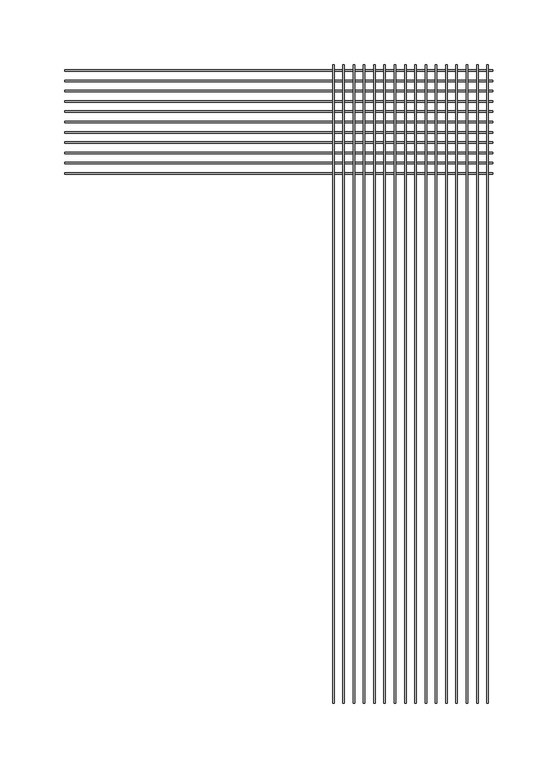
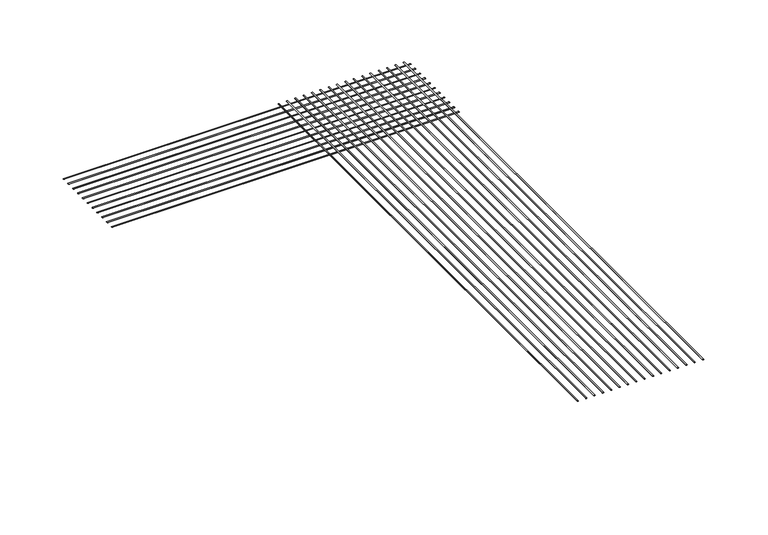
"""IFC4 building model written with IfcOpenShell, lengths in millimetres: proxy geometry, CRAi Generic Model Mesh Piece Face Based : CRAi Generic Model Mesh Piece Face Based."""

from ifc_helpers import new_model, si_unit, point, frame, origin, place, context, project, spatial, ellipse_curve, trimmed, source, transform, mapped, element, save
from ifc_brep_helpers import plane_surface, extruded_surface, advanced_brep


def generic_models_1e1ad44f(model_context):
    return source(origin(), model_context, "Body", "AdvancedBrep", [
        advanced_brep(
        [(41.4734375, -246.3036785, -2.5796875), (42.6640625, -246.3036785, -2.5796875), (41.4734375, 246.3036785, -2.5796875), (42.6640625, 246.3036785, -2.5796875)],
        [
            (0, 1, ellipse_curve(frame((42.06875, -246.3036785, -2.5796875), z_axis=(0.0, -1.0, 0.0), x_axis=(1.0, 0.0, 0.0)), 0.5953125, 0.1984375)),
            (1, 0, ellipse_curve(frame((42.06875, -246.3036785, -2.5796875), z_axis=(0.0, -1.0, 0.0), x_axis=(1.0, 0.0, 0.0)), 0.5953125, 0.1984375)),
            (2, 3, ellipse_curve(frame((42.06875, 246.3036785, -2.5796875), z_axis=(0.0, 1.0, 0.0), x_axis=(1.0, 0.0, 0.0)), 0.5953125, 0.1984375)),
            (3, 2, ellipse_curve(frame((42.06875, 246.3036785, -2.5796875), z_axis=(0.0, 1.0, 0.0), x_axis=(1.0, 0.0, 0.0)), 0.5953125, 0.1984375)),
            (0, 2),
            (3, 1),
        ],
        [
            plane_surface(frame((42.06875, -246.3036785, -2.5796875), z_axis=(0.0, -1.0, 0.0), x_axis=(0.0, 0.0, 1.0))),
            plane_surface(frame((42.06875, 246.3036785, -2.5796875), z_axis=(0.0, 1.0, 0.0), x_axis=(0.0, 0.0, 1.0))),
            extruded_surface(trimmed(ellipse_curve(frame((42.06875, 246.3036785, -2.5796875), z_axis=(0.0, -1.0, 0.0), x_axis=(1.0, 0.0, 0.0)), 0.5953125, 0.1984375), [point((41.4734375, 246.3036785, -2.5796875))], [point((42.6640625, 246.3036785, -2.5796875))], True, "CARTESIAN"), (0.0, -492.607357, 0.0), 492.607357),
            extruded_surface(trimmed(ellipse_curve(frame((42.06875, 246.3036785, -2.5796875), z_axis=(0.0, -1.0, 0.0), x_axis=(1.0, 0.0, 0.0)), 0.5953125, 0.1984375), [point((42.6640625, 246.3036785, -2.5796875))], [point((41.4734375, 246.3036785, -2.5796875))], True, "CARTESIAN"), (0.0, -492.607357, 0.0), 492.607357),
        ],
        [
            (0, [[1, 2]]),
            (1, [[3, 4]]),
            (2, [[-1, 5, -4, 6]]),
            (3, [[-2, -6, -3, -5]]),
        ],
    ),
        advanced_brep(
        [(49.4109375, -246.3036785, -2.5796875), (50.6015625, -246.3036785, -2.5796875), (49.4109375, 246.3036785, -2.5796875), (50.6015625, 246.3036785, -2.5796875)],
        [
            (0, 1, ellipse_curve(frame((50.00625, -246.3036785, -2.5796875), z_axis=(0.0, -1.0, 0.0), x_axis=(1.0, 0.0, 0.0)), 0.5953125, 0.1984375)),
            (1, 0, ellipse_curve(frame((50.00625, -246.3036785, -2.5796875), z_axis=(0.0, -1.0, 0.0), x_axis=(1.0, 0.0, 0.0)), 0.5953125, 0.1984375)),
            (2, 3, ellipse_curve(frame((50.00625, 246.3036785, -2.5796875), z_axis=(0.0, 1.0, 0.0), x_axis=(1.0, 0.0, 0.0)), 0.5953125, 0.1984375)),
            (3, 2, ellipse_curve(frame((50.00625, 246.3036785, -2.5796875), z_axis=(0.0, 1.0, 0.0), x_axis=(1.0, 0.0, 0.0)), 0.5953125, 0.1984375)),
            (0, 2),
            (3, 1),
        ],
        [
            plane_surface(frame((50.00625, -246.3036785, -2.5796875), z_axis=(0.0, -1.0, 0.0), x_axis=(0.0, 0.0, 1.0))),
            plane_surface(frame((50.00625, 246.3036785, -2.5796875), z_axis=(0.0, 1.0, 0.0), x_axis=(0.0, 0.0, 1.0))),
            extruded_surface(trimmed(ellipse_curve(frame((50.00625, 246.3036785, -2.5796875), z_axis=(0.0, -1.0, 0.0), x_axis=(1.0, 0.0, 0.0)), 0.5953125, 0.1984375), [point((49.4109375, 246.3036785, -2.5796875))], [point((50.6015625, 246.3036785, -2.5796875))], True, "CARTESIAN"), (0.0, -492.607357, 0.0), 492.607357),
            extruded_surface(trimmed(ellipse_curve(frame((50.00625, 246.3036785, -2.5796875), z_axis=(0.0, -1.0, 0.0), x_axis=(1.0, 0.0, 0.0)), 0.5953125, 0.1984375), [point((50.6015625, 246.3036785, -2.5796875))], [point((49.4109375, 246.3036785, -2.5796875))], True, "CARTESIAN"), (0.0, -492.607357, 0.0), 492.607357),
        ],
        [
            (0, [[1, 2]]),
            (1, [[3, 4]]),
            (2, [[-1, 5, -4, 6]]),
            (3, [[-2, -6, -3, -5]]),
        ],
    ),
        advanced_brep(
        [(57.3484375, -246.3036785, -2.5796875), (58.5390625, -246.3036785, -2.5796875), (57.3484375, 246.3036785, -2.5796875), (58.5390625, 246.3036785, -2.5796875)],
        [
            (0, 1, ellipse_curve(frame((57.94375, -246.3036785, -2.5796875), z_axis=(0.0, -1.0, 0.0), x_axis=(1.0, 0.0, 0.0)), 0.5953125, 0.1984375)),
            (1, 0, ellipse_curve(frame((57.94375, -246.3036785, -2.5796875), z_axis=(0.0, -1.0, 0.0), x_axis=(1.0, 0.0, 0.0)), 0.5953125, 0.1984375)),
            (2, 3, ellipse_curve(frame((57.94375, 246.3036785, -2.5796875), z_axis=(0.0, 1.0, 0.0), x_axis=(1.0, 0.0, 0.0)), 0.5953125, 0.1984375)),
            (3, 2, ellipse_curve(frame((57.94375, 246.3036785, -2.5796875), z_axis=(0.0, 1.0, 0.0), x_axis=(1.0, 0.0, 0.0)), 0.5953125, 0.1984375)),
            (0, 2),
            (3, 1),
        ],
        [
            plane_surface(frame((57.94375, -246.3036785, -2.5796875), z_axis=(0.0, -1.0, 0.0), x_axis=(0.0, 0.0, 1.0))),
            plane_surface(frame((57.94375, 246.3036785, -2.5796875), z_axis=(0.0, 1.0, 0.0), x_axis=(0.0, 0.0, 1.0))),
            extruded_surface(trimmed(ellipse_curve(frame((57.94375, 246.3036785, -2.5796875), z_axis=(0.0, -1.0, 0.0), x_axis=(1.0, 0.0, 0.0)), 0.5953125, 0.1984375), [point((57.3484375, 246.3036785, -2.5796875))], [point((58.5390625, 246.3036785, -2.5796875))], True, "CARTESIAN"), (0.0, -492.607357, 0.0), 492.607357),
            extruded_surface(trimmed(ellipse_curve(frame((57.94375, 246.3036785, -2.5796875), z_axis=(0.0, -1.0, 0.0), x_axis=(1.0, 0.0, 0.0)), 0.5953125, 0.1984375), [point((58.5390625, 246.3036785, -2.5796875))], [point((57.3484375, 246.3036785, -2.5796875))], True, "CARTESIAN"), (0.0, -492.607357, 0.0), 492.607357),
        ],
        [
            (0, [[1, 2]]),
            (1, [[3, 4]]),
            (2, [[-1, 5, -4, 6]]),
            (3, [[-2, -6, -3, -5]]),
        ],
    ),
        advanced_brep(
        [(65.2859375, -246.3036785, -2.5796875), (66.4765625, -246.3036785, -2.5796875), (65.2859375, 246.3036785, -2.5796875), (66.4765625, 246.3036785, -2.5796875)],
        [
            (0, 1, ellipse_curve(frame((65.88125, -246.3036785, -2.5796875), z_axis=(0.0, -1.0, 0.0), x_axis=(1.0, 0.0, 0.0)), 0.5953125, 0.1984375)),
            (1, 0, ellipse_curve(frame((65.88125, -246.3036785, -2.5796875), z_axis=(0.0, -1.0, 0.0), x_axis=(1.0, 0.0, 0.0)), 0.5953125, 0.1984375)),
            (2, 3, ellipse_curve(frame((65.88125, 246.3036785, -2.5796875), z_axis=(0.0, 1.0, 0.0), x_axis=(1.0, 0.0, 0.0)), 0.5953125, 0.1984375)),
            (3, 2, ellipse_curve(frame((65.88125, 246.3036785, -2.5796875), z_axis=(0.0, 1.0, 0.0), x_axis=(1.0, 0.0, 0.0)), 0.5953125, 0.1984375)),
            (0, 2),
            (3, 1),
        ],
        [
            plane_surface(frame((65.88125, -246.3036785, -2.5796875), z_axis=(0.0, -1.0, 0.0), x_axis=(0.0, 0.0, 1.0))),
            plane_surface(frame((65.88125, 246.3036785, -2.5796875), z_axis=(0.0, 1.0, 0.0), x_axis=(0.0, 0.0, 1.0))),
            extruded_surface(trimmed(ellipse_curve(frame((65.88125, 246.3036785, -2.5796875), z_axis=(0.0, -1.0, 0.0), x_axis=(1.0, 0.0, 0.0)), 0.5953125, 0.1984375), [point((65.2859375, 246.3036785, -2.5796875))], [point((66.4765625, 246.3036785, -2.5796875))], True, "CARTESIAN"), (0.0, -492.607357, 0.0), 492.607357),
            extruded_surface(trimmed(ellipse_curve(frame((65.88125, 246.3036785, -2.5796875), z_axis=(0.0, -1.0, 0.0), x_axis=(1.0, 0.0, 0.0)), 0.5953125, 0.1984375), [point((66.4765625, 246.3036785, -2.5796875))], [point((65.2859375, 246.3036785, -2.5796875))], True, "CARTESIAN"), (0.0, -492.607357, 0.0), 492.607357),
        ],
        [
            (0, [[1, 2]]),
            (1, [[3, 4]]),
            (2, [[-1, 5, -4, 6]]),
            (3, [[-2, -6, -3, -5]]),
        ],
    ),
        advanced_brep(
        [(73.2234375, -246.3036785, -2.5796875), (74.4140625, -246.3036785, -2.5796875), (73.2234375, 246.3036785, -2.5796875), (74.4140625, 246.3036785, -2.5796875)],
        [
            (0, 1, ellipse_curve(frame((73.81875, -246.3036785, -2.5796875), z_axis=(0.0, -1.0, 0.0), x_axis=(1.0, 0.0, 0.0)), 0.5953125, 0.1984375)),
            (1, 0, ellipse_curve(frame((73.81875, -246.3036785, -2.5796875), z_axis=(0.0, -1.0, 0.0), x_axis=(1.0, 0.0, 0.0)), 0.5953125, 0.1984375)),
            (2, 3, ellipse_curve(frame((73.81875, 246.3036785, -2.5796875), z_axis=(0.0, 1.0, 0.0), x_axis=(1.0, 0.0, 0.0)), 0.5953125, 0.1984375)),
            (3, 2, ellipse_curve(frame((73.81875, 246.3036785, -2.5796875), z_axis=(0.0, 1.0, 0.0), x_axis=(1.0, 0.0, 0.0)), 0.5953125, 0.1984375)),
            (0, 2),
            (3, 1),
        ],
        [
            plane_surface(frame((73.81875, -246.3036785, -2.5796875), z_axis=(0.0, -1.0, 0.0), x_axis=(0.0, 0.0, 1.0))),
            plane_surface(frame((73.81875, 246.3036785, -2.5796875), z_axis=(0.0, 1.0, 0.0), x_axis=(0.0, 0.0, 1.0))),
            extruded_surface(trimmed(ellipse_curve(frame((73.81875, 246.3036785, -2.5796875), z_axis=(0.0, -1.0, 0.0), x_axis=(1.0, 0.0, 0.0)), 0.5953125, 0.1984375), [point((73.2234375, 246.3036785, -2.5796875))], [point((74.4140625, 246.3036785, -2.5796875))], True, "CARTESIAN"), (0.0, -492.607357, 0.0), 492.607357),
            extruded_surface(trimmed(ellipse_curve(frame((73.81875, 246.3036785, -2.5796875), z_axis=(0.0, -1.0, 0.0), x_axis=(1.0, 0.0, 0.0)), 0.5953125, 0.1984375), [point((74.4140625, 246.3036785, -2.5796875))], [point((73.2234375, 246.3036785, -2.5796875))], True, "CARTESIAN"), (0.0, -492.607357, 0.0), 492.607357),
        ],
        [
            (0, [[1, 2]]),
            (1, [[3, 4]]),
            (2, [[-1, 5, -4, 6]]),
            (3, [[-2, -6, -3, -5]]),
        ],
    ),
        advanced_brep(
        [(81.1609375, -246.3036785, -2.5796875), (82.3515625, -246.3036785, -2.5796875), (81.1609375, 246.3036785, -2.5796875), (82.3515625, 246.3036785, -2.5796875)],
        [
            (0, 1, ellipse_curve(frame((81.75625, -246.3036785, -2.5796875), z_axis=(0.0, -1.0, 0.0), x_axis=(1.0, 0.0, 0.0)), 0.5953125, 0.1984375)),
            (1, 0, ellipse_curve(frame((81.75625, -246.3036785, -2.5796875), z_axis=(0.0, -1.0, 0.0), x_axis=(1.0, 0.0, 0.0)), 0.5953125, 0.1984375)),
            (2, 3, ellipse_curve(frame((81.75625, 246.3036785, -2.5796875), z_axis=(0.0, 1.0, 0.0), x_axis=(1.0, 0.0, 0.0)), 0.5953125, 0.1984375)),
            (3, 2, ellipse_curve(frame((81.75625, 246.3036785, -2.5796875), z_axis=(0.0, 1.0, 0.0), x_axis=(1.0, 0.0, 0.0)), 0.5953125, 0.1984375)),
            (0, 2),
            (3, 1),
        ],
        [
            plane_surface(frame((81.75625, -246.3036785, -2.5796875), z_axis=(0.0, -1.0, 0.0), x_axis=(0.0, 0.0, 1.0))),
            plane_surface(frame((81.75625, 246.3036785, -2.5796875), z_axis=(0.0, 1.0, 0.0), x_axis=(0.0, 0.0, 1.0))),
            extruded_surface(trimmed(ellipse_curve(frame((81.75625, 246.3036785, -2.5796875), z_axis=(0.0, -1.0, 0.0), x_axis=(1.0, 0.0, 0.0)), 0.5953125, 0.1984375), [point((81.1609375, 246.3036785, -2.5796875))], [point((82.3515625, 246.3036785, -2.5796875))], True, "CARTESIAN"), (0.0, -492.607357, 0.0), 492.607357),
            extruded_surface(trimmed(ellipse_curve(frame((81.75625, 246.3036785, -2.5796875), z_axis=(0.0, -1.0, 0.0), x_axis=(1.0, 0.0, 0.0)), 0.5953125, 0.1984375), [point((82.3515625, 246.3036785, -2.5796875))], [point((81.1609375, 246.3036785, -2.5796875))], True, "CARTESIAN"), (0.0, -492.607357, 0.0), 492.607357),
        ],
        [
            (0, [[1, 2]]),
            (1, [[3, 4]]),
            (2, [[-1, 5, -4, 6]]),
            (3, [[-2, -6, -3, -5]]),
        ],
    ),
        advanced_brep(
        [(89.0984375, -246.3036785, -2.5796875), (90.2890625, -246.3036785, -2.5796875), (89.0984375, 246.3036785, -2.5796875), (90.2890625, 246.3036785, -2.5796875)],
        [
            (0, 1, ellipse_curve(frame((89.69375, -246.3036785, -2.5796875), z_axis=(0.0, -1.0, 0.0), x_axis=(1.0, 0.0, 0.0)), 0.5953125, 0.1984375)),
            (1, 0, ellipse_curve(frame((89.69375, -246.3036785, -2.5796875), z_axis=(0.0, -1.0, 0.0), x_axis=(1.0, 0.0, 0.0)), 0.5953125, 0.1984375)),
            (2, 3, ellipse_curve(frame((89.69375, 246.3036785, -2.5796875), z_axis=(0.0, 1.0, 0.0), x_axis=(1.0, 0.0, 0.0)), 0.5953125, 0.1984375)),
            (3, 2, ellipse_curve(frame((89.69375, 246.3036785, -2.5796875), z_axis=(0.0, 1.0, 0.0), x_axis=(1.0, 0.0, 0.0)), 0.5953125, 0.1984375)),
            (0, 2),
            (3, 1),
        ],
        [
            plane_surface(frame((89.69375, -246.3036785, -2.5796875), z_axis=(0.0, -1.0, 0.0), x_axis=(0.0, 0.0, 1.0))),
            plane_surface(frame((89.69375, 246.3036785, -2.5796875), z_axis=(0.0, 1.0, 0.0), x_axis=(0.0, 0.0, 1.0))),
            extruded_surface(trimmed(ellipse_curve(frame((89.69375, 246.3036785, -2.5796875), z_axis=(0.0, -1.0, 0.0), x_axis=(1.0, 0.0, 0.0)), 0.5953125, 0.1984375), [point((89.0984375, 246.3036785, -2.5796875))], [point((90.2890625, 246.3036785, -2.5796875))], True, "CARTESIAN"), (0.0, -492.607357, 0.0), 492.607357),
            extruded_surface(trimmed(ellipse_curve(frame((89.69375, 246.3036785, -2.5796875), z_axis=(0.0, -1.0, 0.0), x_axis=(1.0, 0.0, 0.0)), 0.5953125, 0.1984375), [point((90.2890625, 246.3036785, -2.5796875))], [point((89.0984375, 246.3036785, -2.5796875))], True, "CARTESIAN"), (0.0, -492.607357, 0.0), 492.607357),
        ],
        [
            (0, [[1, 2]]),
            (1, [[3, 4]]),
            (2, [[-1, 5, -4, 6]]),
            (3, [[-2, -6, -3, -5]]),
        ],
    ),
        advanced_brep(
        [(97.0359375, -246.3036785, -2.5796875), (98.2265625, -246.3036785, -2.5796875), (97.0359375, 246.3036785, -2.5796875), (98.2265625, 246.3036785, -2.5796875)],
        [
            (0, 1, ellipse_curve(frame((97.63125, -246.3036785, -2.5796875), z_axis=(0.0, -1.0, 0.0), x_axis=(1.0, 0.0, 0.0)), 0.5953125, 0.1984375)),
            (1, 0, ellipse_curve(frame((97.63125, -246.3036785, -2.5796875), z_axis=(0.0, -1.0, 0.0), x_axis=(1.0, 0.0, 0.0)), 0.5953125, 0.1984375)),
            (2, 3, ellipse_curve(frame((97.63125, 246.3036785, -2.5796875), z_axis=(0.0, 1.0, 0.0), x_axis=(1.0, 0.0, 0.0)), 0.5953125, 0.1984375)),
            (3, 2, ellipse_curve(frame((97.63125, 246.3036785, -2.5796875), z_axis=(0.0, 1.0, 0.0), x_axis=(1.0, 0.0, 0.0)), 0.5953125, 0.1984375)),
            (0, 2),
            (3, 1),
        ],
        [
            plane_surface(frame((97.63125, -246.3036785, -2.5796875), z_axis=(0.0, -1.0, 0.0), x_axis=(0.0, 0.0, 1.0))),
            plane_surface(frame((97.63125, 246.3036785, -2.5796875), z_axis=(0.0, 1.0, 0.0), x_axis=(0.0, 0.0, 1.0))),
            extruded_surface(trimmed(ellipse_curve(frame((97.63125, 246.3036785, -2.5796875), z_axis=(0.0, -1.0, 0.0), x_axis=(1.0, 0.0, 0.0)), 0.5953125, 0.1984375), [point((97.0359375, 246.3036785, -2.5796875))], [point((98.2265625, 246.3036785, -2.5796875))], True, "CARTESIAN"), (0.0, -492.607357, 0.0), 492.607357),
            extruded_surface(trimmed(ellipse_curve(frame((97.63125, 246.3036785, -2.5796875), z_axis=(0.0, -1.0, 0.0), x_axis=(1.0, 0.0, 0.0)), 0.5953125, 0.1984375), [point((98.2265625, 246.3036785, -2.5796875))], [point((97.0359375, 246.3036785, -2.5796875))], True, "CARTESIAN"), (0.0, -492.607357, 0.0), 492.607357),
        ],
        [
            (0, [[1, 2]]),
            (1, [[3, 4]]),
            (2, [[-1, 5, -4, 6]]),
            (3, [[-2, -6, -3, -5]]),
        ],
    ),
        advanced_brep(
        [(104.9734375, -246.3036785, -2.5796875), (106.1640625, -246.3036785, -2.5796875), (104.9734375, 246.3036785, -2.5796875), (106.1640625, 246.3036785, -2.5796875)],
        [
            (0, 1, ellipse_curve(frame((105.56875, -246.3036785, -2.5796875), z_axis=(0.0, -1.0, 0.0), x_axis=(1.0, 0.0, 0.0)), 0.5953125, 0.1984375)),
            (1, 0, ellipse_curve(frame((105.56875, -246.3036785, -2.5796875), z_axis=(0.0, -1.0, 0.0), x_axis=(1.0, 0.0, 0.0)), 0.5953125, 0.1984375)),
            (2, 3, ellipse_curve(frame((105.56875, 246.3036785, -2.5796875), z_axis=(0.0, 1.0, 0.0), x_axis=(1.0, 0.0, 0.0)), 0.5953125, 0.1984375)),
            (3, 2, ellipse_curve(frame((105.56875, 246.3036785, -2.5796875), z_axis=(0.0, 1.0, 0.0), x_axis=(1.0, 0.0, 0.0)), 0.5953125, 0.1984375)),
            (0, 2),
            (3, 1),
        ],
        [
            plane_surface(frame((105.56875, -246.3036785, -2.5796875), z_axis=(0.0, -1.0, 0.0), x_axis=(0.0, 0.0, 1.0))),
            plane_surface(frame((105.56875, 246.3036785, -2.5796875), z_axis=(0.0, 1.0, 0.0), x_axis=(0.0, 0.0, 1.0))),
            extruded_surface(trimmed(ellipse_curve(frame((105.56875, 246.3036785, -2.5796875), z_axis=(0.0, -1.0, 0.0), x_axis=(1.0, 0.0, 0.0)), 0.5953125, 0.1984375), [point((104.9734375, 246.3036785, -2.5796875))], [point((106.1640625, 246.3036785, -2.5796875))], True, "CARTESIAN"), (0.0, -492.607357, 0.0), 492.607357),
            extruded_surface(trimmed(ellipse_curve(frame((105.56875, 246.3036785, -2.5796875), z_axis=(0.0, -1.0, 0.0), x_axis=(1.0, 0.0, 0.0)), 0.5953125, 0.1984375), [point((106.1640625, 246.3036785, -2.5796875))], [point((104.9734375, 246.3036785, -2.5796875))], True, "CARTESIAN"), (0.0, -492.607357, 0.0), 492.607357),
        ],
        [
            (0, [[1, 2]]),
            (1, [[3, 4]]),
            (2, [[-1, 5, -4, 6]]),
            (3, [[-2, -6, -3, -5]]),
        ],
    ),
        advanced_brep(
        [(112.9109375, -246.3036785, -2.5796875), (114.1015625, -246.3036785, -2.5796875), (112.9109375, 246.3036785, -2.5796875), (114.1015625, 246.3036785, -2.5796875)],
        [
            (0, 1, ellipse_curve(frame((113.50625, -246.3036785, -2.5796875), z_axis=(0.0, -1.0, 0.0), x_axis=(1.0, 0.0, 0.0)), 0.5953125, 0.1984375)),
            (1, 0, ellipse_curve(frame((113.50625, -246.3036785, -2.5796875), z_axis=(0.0, -1.0, 0.0), x_axis=(1.0, 0.0, 0.0)), 0.5953125, 0.1984375)),
            (2, 3, ellipse_curve(frame((113.50625, 246.3036785, -2.5796875), z_axis=(0.0, 1.0, 0.0), x_axis=(1.0, 0.0, 0.0)), 0.5953125, 0.1984375)),
            (3, 2, ellipse_curve(frame((113.50625, 246.3036785, -2.5796875), z_axis=(0.0, 1.0, 0.0), x_axis=(1.0, 0.0, 0.0)), 0.5953125, 0.1984375)),
            (0, 2),
            (3, 1),
        ],
        [
            plane_surface(frame((113.50625, -246.3036785, -2.5796875), z_axis=(0.0, -1.0, 0.0), x_axis=(0.0, 0.0, 1.0))),
            plane_surface(frame((113.50625, 246.3036785, -2.5796875), z_axis=(0.0, 1.0, 0.0), x_axis=(0.0, 0.0, 1.0))),
            extruded_surface(trimmed(ellipse_curve(frame((113.50625, 246.3036785, -2.5796875), z_axis=(0.0, -1.0, 0.0), x_axis=(1.0, 0.0, 0.0)), 0.5953125, 0.1984375), [point((112.9109375, 246.3036785, -2.5796875))], [point((114.1015625, 246.3036785, -2.5796875))], True, "CARTESIAN"), (0.0, -492.607357, 0.0), 492.607357),
            extruded_surface(trimmed(ellipse_curve(frame((113.50625, 246.3036785, -2.5796875), z_axis=(0.0, -1.0, 0.0), x_axis=(1.0, 0.0, 0.0)), 0.5953125, 0.1984375), [point((114.1015625, 246.3036785, -2.5796875))], [point((112.9109375, 246.3036785, -2.5796875))], True, "CARTESIAN"), (0.0, -492.607357, 0.0), 492.607357),
        ],
        [
            (0, [[1, 2]]),
            (1, [[3, 4]]),
            (2, [[-1, 5, -4, 6]]),
            (3, [[-2, -6, -3, -5]]),
        ],
    ),
        advanced_brep(
        [(120.8484375, -246.3036785, -2.5796875), (122.0390625, -246.3036785, -2.5796875), (120.8484375, 246.3036785, -2.5796875), (122.0390625, 246.3036785, -2.5796875)],
        [
            (0, 1, ellipse_curve(frame((121.44375, -246.3036785, -2.5796875), z_axis=(0.0, -1.0, 0.0), x_axis=(1.0, 0.0, 0.0)), 0.5953125, 0.1984375)),
            (1, 0, ellipse_curve(frame((121.44375, -246.3036785, -2.5796875), z_axis=(0.0, -1.0, 0.0), x_axis=(1.0, 0.0, 0.0)), 0.5953125, 0.1984375)),
            (2, 3, ellipse_curve(frame((121.44375, 246.3036785, -2.5796875), z_axis=(0.0, 1.0, 0.0), x_axis=(1.0, 0.0, 0.0)), 0.5953125, 0.1984375)),
            (3, 2, ellipse_curve(frame((121.44375, 246.3036785, -2.5796875), z_axis=(0.0, 1.0, 0.0), x_axis=(1.0, 0.0, 0.0)), 0.5953125, 0.1984375)),
            (0, 2),
            (3, 1),
        ],
        [
            plane_surface(frame((121.44375, -246.3036785, -2.5796875), z_axis=(0.0, -1.0, 0.0), x_axis=(0.0, 0.0, 1.0))),
            plane_surface(frame((121.44375, 246.3036785, -2.5796875), z_axis=(0.0, 1.0, 0.0), x_axis=(0.0, 0.0, 1.0))),
            extruded_surface(trimmed(ellipse_curve(frame((121.44375, 246.3036785, -2.5796875), z_axis=(0.0, -1.0, 0.0), x_axis=(1.0, 0.0, 0.0)), 0.5953125, 0.1984375), [point((120.8484375, 246.3036785, -2.5796875))], [point((122.0390625, 246.3036785, -2.5796875))], True, "CARTESIAN"), (0.0, -492.607357, 0.0), 492.607357),
            extruded_surface(trimmed(ellipse_curve(frame((121.44375, 246.3036785, -2.5796875), z_axis=(0.0, -1.0, 0.0), x_axis=(1.0, 0.0, 0.0)), 0.5953125, 0.1984375), [point((122.0390625, 246.3036785, -2.5796875))], [point((120.8484375, 246.3036785, -2.5796875))], True, "CARTESIAN"), (0.0, -492.607357, 0.0), 492.607357),
        ],
        [
            (0, [[1, 2]]),
            (1, [[3, 4]]),
            (2, [[-1, 5, -4, 6]]),
            (3, [[-2, -6, -3, -5]]),
        ],
    ),
        advanced_brep(
        [(128.7859375, -246.3036785, -2.5796875), (129.9765625, -246.3036785, -2.5796875), (128.7859375, 246.3036785, -2.5796875), (129.9765625, 246.3036785, -2.5796875)],
        [
            (0, 1, ellipse_curve(frame((129.38125, -246.3036785, -2.5796875), z_axis=(0.0, -1.0, 0.0), x_axis=(1.0, 0.0, 0.0)), 0.5953125, 0.1984375)),
            (1, 0, ellipse_curve(frame((129.38125, -246.3036785, -2.5796875), z_axis=(0.0, -1.0, 0.0), x_axis=(1.0, 0.0, 0.0)), 0.5953125, 0.1984375)),
            (2, 3, ellipse_curve(frame((129.38125, 246.3036785, -2.5796875), z_axis=(0.0, 1.0, 0.0), x_axis=(1.0, 0.0, 0.0)), 0.5953125, 0.1984375)),
            (3, 2, ellipse_curve(frame((129.38125, 246.3036785, -2.5796875), z_axis=(0.0, 1.0, 0.0), x_axis=(1.0, 0.0, 0.0)), 0.5953125, 0.1984375)),
            (0, 2),
            (3, 1),
        ],
        [
            plane_surface(frame((129.38125, -246.3036785, -2.5796875), z_axis=(0.0, -1.0, 0.0), x_axis=(0.0, 0.0, 1.0))),
            plane_surface(frame((129.38125, 246.3036785, -2.5796875), z_axis=(0.0, 1.0, 0.0), x_axis=(0.0, 0.0, 1.0))),
            extruded_surface(trimmed(ellipse_curve(frame((129.38125, 246.3036785, -2.5796875), z_axis=(0.0, -1.0, 0.0), x_axis=(1.0, 0.0, 0.0)), 0.5953125, 0.1984375), [point((128.7859375, 246.3036785, -2.5796875))], [point((129.9765625, 246.3036785, -2.5796875))], True, "CARTESIAN"), (0.0, -492.607357, 0.0), 492.607357),
            extruded_surface(trimmed(ellipse_curve(frame((129.38125, 246.3036785, -2.5796875), z_axis=(0.0, -1.0, 0.0), x_axis=(1.0, 0.0, 0.0)), 0.5953125, 0.1984375), [point((129.9765625, 246.3036785, -2.5796875))], [point((128.7859375, 246.3036785, -2.5796875))], True, "CARTESIAN"), (0.0, -492.607357, 0.0), 492.607357),
        ],
        [
            (0, [[1, 2]]),
            (1, [[3, 4]]),
            (2, [[-1, 5, -4, 6]]),
            (3, [[-2, -6, -3, -5]]),
        ],
    ),
        advanced_brep(
        [(136.7234375, -246.3036785, -2.5796875), (137.9140625, -246.3036785, -2.5796875), (136.7234375, 246.3036785, -2.5796875), (137.9140625, 246.3036785, -2.5796875)],
        [
            (0, 1, ellipse_curve(frame((137.31875, -246.3036785, -2.5796875), z_axis=(0.0, -1.0, 0.0), x_axis=(1.0, 0.0, 0.0)), 0.5953125, 0.1984375)),
            (1, 0, ellipse_curve(frame((137.31875, -246.3036785, -2.5796875), z_axis=(0.0, -1.0, 0.0), x_axis=(1.0, 0.0, 0.0)), 0.5953125, 0.1984375)),
            (2, 3, ellipse_curve(frame((137.31875, 246.3036785, -2.5796875), z_axis=(0.0, 1.0, 0.0), x_axis=(1.0, 0.0, 0.0)), 0.5953125, 0.1984375)),
            (3, 2, ellipse_curve(frame((137.31875, 246.3036785, -2.5796875), z_axis=(0.0, 1.0, 0.0), x_axis=(1.0, 0.0, 0.0)), 0.5953125, 0.1984375)),
            (0, 2),
            (3, 1),
        ],
        [
            plane_surface(frame((137.31875, -246.3036785, -2.5796875), z_axis=(0.0, -1.0, 0.0), x_axis=(0.0, 0.0, 1.0))),
            plane_surface(frame((137.31875, 246.3036785, -2.5796875), z_axis=(0.0, 1.0, 0.0), x_axis=(0.0, 0.0, 1.0))),
            extruded_surface(trimmed(ellipse_curve(frame((137.31875, 246.3036785, -2.5796875), z_axis=(0.0, -1.0, 0.0), x_axis=(1.0, 0.0, 0.0)), 0.5953125, 0.1984375), [point((136.7234375, 246.3036785, -2.5796875))], [point((137.9140625, 246.3036785, -2.5796875))], True, "CARTESIAN"), (0.0, -492.607357, 0.0), 492.607357),
            extruded_surface(trimmed(ellipse_curve(frame((137.31875, 246.3036785, -2.5796875), z_axis=(0.0, -1.0, 0.0), x_axis=(1.0, 0.0, 0.0)), 0.5953125, 0.1984375), [point((137.9140625, 246.3036785, -2.5796875))], [point((136.7234375, 246.3036785, -2.5796875))], True, "CARTESIAN"), (0.0, -492.607357, 0.0), 492.607357),
        ],
        [
            (0, [[1, 2]]),
            (1, [[3, 4]]),
            (2, [[-1, 5, -4, 6]]),
            (3, [[-2, -6, -3, -5]]),
        ],
    ),
        advanced_brep(
        [(144.6609375, -246.3036785, -2.5796875), (145.8515625, -246.3036785, -2.5796875), (144.6609375, 246.3036785, -2.5796875), (145.8515625, 246.3036785, -2.5796875)],
        [
            (0, 1, ellipse_curve(frame((145.25625, -246.3036785, -2.5796875), z_axis=(0.0, -1.0, 0.0), x_axis=(1.0, 0.0, 0.0)), 0.5953125, 0.1984375)),
            (1, 0, ellipse_curve(frame((145.25625, -246.3036785, -2.5796875), z_axis=(0.0, -1.0, 0.0), x_axis=(1.0, 0.0, 0.0)), 0.5953125, 0.1984375)),
            (2, 3, ellipse_curve(frame((145.25625, 246.3036785, -2.5796875), z_axis=(0.0, 1.0, 0.0), x_axis=(1.0, 0.0, 0.0)), 0.5953125, 0.1984375)),
            (3, 2, ellipse_curve(frame((145.25625, 246.3036785, -2.5796875), z_axis=(0.0, 1.0, 0.0), x_axis=(1.0, 0.0, 0.0)), 0.5953125, 0.1984375)),
            (0, 2),
            (3, 1),
        ],
        [
            plane_surface(frame((145.25625, -246.3036785, -2.5796875), z_axis=(0.0, -1.0, 0.0), x_axis=(0.0, 0.0, 1.0))),
            plane_surface(frame((145.25625, 246.3036785, -2.5796875), z_axis=(0.0, 1.0, 0.0), x_axis=(0.0, 0.0, 1.0))),
            extruded_surface(trimmed(ellipse_curve(frame((145.25625, 246.3036785, -2.5796875), z_axis=(0.0, -1.0, 0.0), x_axis=(1.0, 0.0, 0.0)), 0.5953125, 0.1984375), [point((144.6609375, 246.3036785, -2.5796875))], [point((145.8515625, 246.3036785, -2.5796875))], True, "CARTESIAN"), (0.0, -492.607357, 0.0), 492.607357),
            extruded_surface(trimmed(ellipse_curve(frame((145.25625, 246.3036785, -2.5796875), z_axis=(0.0, -1.0, 0.0), x_axis=(1.0, 0.0, 0.0)), 0.5953125, 0.1984375), [point((145.8515625, 246.3036785, -2.5796875))], [point((144.6609375, 246.3036785, -2.5796875))], True, "CARTESIAN"), (0.0, -492.607357, 0.0), 492.607357),
        ],
        [
            (0, [[1, 2]]),
            (1, [[3, 4]]),
            (2, [[-1, 5, -4, 6]]),
            (3, [[-2, -6, -3, -5]]),
        ],
    ),
        advanced_brep(
        [(152.5984375, -246.3036785, -2.5796875), (153.7890625, -246.3036785, -2.5796875), (152.5984375, 246.3036785, -2.5796875), (153.7890625, 246.3036785, -2.5796875)],
        [
            (0, 1, ellipse_curve(frame((153.19375, -246.3036785, -2.5796875), z_axis=(0.0, -1.0, 0.0), x_axis=(1.0, 0.0, 0.0)), 0.5953125, 0.1984375)),
            (1, 0, ellipse_curve(frame((153.19375, -246.3036785, -2.5796875), z_axis=(0.0, -1.0, 0.0), x_axis=(1.0, 0.0, 0.0)), 0.5953125, 0.1984375)),
            (2, 3, ellipse_curve(frame((153.19375, 246.3036785, -2.5796875), z_axis=(0.0, 1.0, 0.0), x_axis=(1.0, 0.0, 0.0)), 0.5953125, 0.1984375)),
            (3, 2, ellipse_curve(frame((153.19375, 246.3036785, -2.5796875), z_axis=(0.0, 1.0, 0.0), x_axis=(1.0, 0.0, 0.0)), 0.5953125, 0.1984375)),
            (0, 2),
            (3, 1),
        ],
        [
            plane_surface(frame((153.19375, -246.3036785, -2.5796875), z_axis=(0.0, -1.0, 0.0), x_axis=(0.0, 0.0, 1.0))),
            plane_surface(frame((153.19375, 246.3036785, -2.5796875), z_axis=(0.0, 1.0, 0.0), x_axis=(0.0, 0.0, 1.0))),
            extruded_surface(trimmed(ellipse_curve(frame((153.19375, 246.3036785, -2.5796875), z_axis=(0.0, -1.0, 0.0), x_axis=(1.0, 0.0, 0.0)), 0.5953125, 0.1984375), [point((152.5984375, 246.3036785, -2.5796875))], [point((153.7890625, 246.3036785, -2.5796875))], True, "CARTESIAN"), (0.0, -492.607357, 0.0), 492.607357),
            extruded_surface(trimmed(ellipse_curve(frame((153.19375, 246.3036785, -2.5796875), z_axis=(0.0, -1.0, 0.0), x_axis=(1.0, 0.0, 0.0)), 0.5953125, 0.1984375), [point((153.7890625, 246.3036785, -2.5796875))], [point((152.5984375, 246.3036785, -2.5796875))], True, "CARTESIAN"), (0.0, -492.607357, 0.0), 492.607357),
        ],
        [
            (0, [[1, 2]]),
            (1, [[3, 4]]),
            (2, [[-1, 5, -4, 6]]),
            (3, [[-2, -6, -3, -5]]),
        ],
    ),
        advanced_brep(
        [(160.5359375, -246.3036785, -2.5796875), (161.7265625, -246.3036785, -2.5796875), (160.5359375, 246.3036785, -2.5796875), (161.7265625, 246.3036785, -2.5796875)],
        [
            (0, 1, ellipse_curve(frame((161.13125, -246.3036785, -2.5796875), z_axis=(0.0, -1.0, 0.0), x_axis=(1.0, 0.0, 0.0)), 0.5953125, 0.1984375)),
            (1, 0, ellipse_curve(frame((161.13125, -246.3036785, -2.5796875), z_axis=(0.0, -1.0, 0.0), x_axis=(1.0, 0.0, 0.0)), 0.5953125, 0.1984375)),
            (2, 3, ellipse_curve(frame((161.13125, 246.3036785, -2.5796875), z_axis=(0.0, 1.0, 0.0), x_axis=(1.0, 0.0, 0.0)), 0.5953125, 0.1984375)),
            (3, 2, ellipse_curve(frame((161.13125, 246.3036785, -2.5796875), z_axis=(0.0, 1.0, 0.0), x_axis=(1.0, 0.0, 0.0)), 0.5953125, 0.1984375)),
            (0, 2),
            (3, 1),
        ],
        [
            plane_surface(frame((161.13125, -246.3036785, -2.5796875), z_axis=(0.0, -1.0, 0.0), x_axis=(0.0, 0.0, 1.0))),
            plane_surface(frame((161.13125, 246.3036785, -2.5796875), z_axis=(0.0, 1.0, 0.0), x_axis=(0.0, 0.0, 1.0))),
            extruded_surface(trimmed(ellipse_curve(frame((161.13125, 246.3036785, -2.5796875), z_axis=(0.0, -1.0, 0.0), x_axis=(1.0, 0.0, 0.0)), 0.5953125, 0.1984375), [point((160.5359375, 246.3036785, -2.5796875))], [point((161.7265625, 246.3036785, -2.5796875))], True, "CARTESIAN"), (0.0, -492.607357, 0.0), 492.607357),
            extruded_surface(trimmed(ellipse_curve(frame((161.13125, 246.3036785, -2.5796875), z_axis=(0.0, -1.0, 0.0), x_axis=(1.0, 0.0, 0.0)), 0.5953125, 0.1984375), [point((161.7265625, 246.3036785, -2.5796875))], [point((160.5359375, 246.3036785, -2.5796875))], True, "CARTESIAN"), (0.0, -492.607357, 0.0), 492.607357),
        ],
        [
            (0, [[1, 2]]),
            (1, [[3, 4]]),
            (2, [[-1, 5, -4, 6]]),
            (3, [[-2, -6, -3, -5]]),
        ],
    ),
        advanced_brep(
        [(-165.1, 242.447884, -2.9765625), (-165.1, 241.257259, -2.9765625), (165.1, 242.447884, -2.9765625), (165.1, 241.257259, -2.9765625)],
        [
            (0, 1, ellipse_curve(frame((-165.1, 241.8525715, -2.9765625), z_axis=(-1.0, 0.0, 0.0), x_axis=(0.0, -1.0, 0.0)), 0.5953125, 0.1984375)),
            (1, 0, ellipse_curve(frame((-165.1, 241.8525715, -2.9765625), z_axis=(-1.0, 0.0, 0.0), x_axis=(0.0, -1.0, 0.0)), 0.5953125, 0.1984375)),
            (2, 3, ellipse_curve(frame((165.1, 241.8525715, -2.9765625), z_axis=(1.0, 0.0, 0.0), x_axis=(0.0, -1.0, 0.0)), 0.5953125, 0.1984375)),
            (3, 2, ellipse_curve(frame((165.1, 241.8525715, -2.9765625), z_axis=(1.0, 0.0, 0.0), x_axis=(0.0, -1.0, 0.0)), 0.5953125, 0.1984375)),
            (0, 2),
            (3, 1),
        ],
        [
            plane_surface(frame((-165.1, 241.8525715, -2.9765625), z_axis=(-1.0, 0.0, 0.0), x_axis=(0.0, 0.0, 1.0))),
            plane_surface(frame((165.1, 241.8525715, -2.9765625), z_axis=(1.0, 0.0, 0.0), x_axis=(0.0, 0.0, 1.0))),
            extruded_surface(trimmed(ellipse_curve(frame((165.1, 241.8525715, -2.9765625), z_axis=(-1.0, 0.0, 0.0), x_axis=(0.0, -1.0, 0.0)), 0.5953125, 0.1984375), [point((165.1, 242.447884, -2.9765625))], [point((165.1, 241.257259, -2.9765625))], True, "CARTESIAN"), (-330.2, 0.0, 0.0), 330.2),
            extruded_surface(trimmed(ellipse_curve(frame((165.1, 241.8525715, -2.9765625), z_axis=(-1.0, 0.0, 0.0), x_axis=(0.0, -1.0, 0.0)), 0.5953125, 0.1984375), [point((165.1, 241.257259, -2.9765625))], [point((165.1, 242.447884, -2.9765625))], True, "CARTESIAN"), (-330.2, 0.0, 0.0), 330.2),
        ],
        [
            (0, [[1, 2]]),
            (1, [[3, 4]]),
            (2, [[-1, 5, -4, 6]]),
            (3, [[-2, -6, -3, -5]]),
        ],
    ),
        advanced_brep(
        [(-165.1, 234.510384, -2.9765625), (-165.1, 233.319759, -2.9765625), (165.1, 234.510384, -2.9765625), (165.1, 233.319759, -2.9765625)],
        [
            (0, 1, ellipse_curve(frame((-165.1, 233.9150715, -2.9765625), z_axis=(-1.0, 0.0, 0.0), x_axis=(0.0, -1.0, 0.0)), 0.5953125, 0.1984375)),
            (1, 0, ellipse_curve(frame((-165.1, 233.9150715, -2.9765625), z_axis=(-1.0, 0.0, 0.0), x_axis=(0.0, -1.0, 0.0)), 0.5953125, 0.1984375)),
            (2, 3, ellipse_curve(frame((165.1, 233.9150715, -2.9765625), z_axis=(1.0, 0.0, 0.0), x_axis=(0.0, -1.0, 0.0)), 0.5953125, 0.1984375)),
            (3, 2, ellipse_curve(frame((165.1, 233.9150715, -2.9765625), z_axis=(1.0, 0.0, 0.0), x_axis=(0.0, -1.0, 0.0)), 0.5953125, 0.1984375)),
            (0, 2),
            (3, 1),
        ],
        [
            plane_surface(frame((-165.1, 233.9150715, -2.9765625), z_axis=(-1.0, 0.0, 0.0), x_axis=(0.0, 0.0, 1.0))),
            plane_surface(frame((165.1, 233.9150715, -2.9765625), z_axis=(1.0, 0.0, 0.0), x_axis=(0.0, 0.0, 1.0))),
            extruded_surface(trimmed(ellipse_curve(frame((165.1, 233.9150715, -2.9765625), z_axis=(-1.0, 0.0, 0.0), x_axis=(0.0, -1.0, 0.0)), 0.5953125, 0.1984375), [point((165.1, 234.510384, -2.9765625))], [point((165.1, 233.319759, -2.9765625))], True, "CARTESIAN"), (-330.2, 0.0, 0.0), 330.2),
            extruded_surface(trimmed(ellipse_curve(frame((165.1, 233.9150715, -2.9765625), z_axis=(-1.0, 0.0, 0.0), x_axis=(0.0, -1.0, 0.0)), 0.5953125, 0.1984375), [point((165.1, 233.319759, -2.9765625))], [point((165.1, 234.510384, -2.9765625))], True, "CARTESIAN"), (-330.2, 0.0, 0.0), 330.2),
        ],
        [
            (0, [[1, 2]]),
            (1, [[3, 4]]),
            (2, [[-1, 5, -4, 6]]),
            (3, [[-2, -6, -3, -5]]),
        ],
    ),
        advanced_brep(
        [(-165.1, 226.572884, -2.9765625), (-165.1, 225.382259, -2.9765625), (165.1, 226.572884, -2.9765625), (165.1, 225.382259, -2.9765625)],
        [
            (0, 1, ellipse_curve(frame((-165.1, 225.9775715, -2.9765625), z_axis=(-1.0, 0.0, 0.0), x_axis=(0.0, -1.0, 0.0)), 0.5953125, 0.1984375)),
            (1, 0, ellipse_curve(frame((-165.1, 225.9775715, -2.9765625), z_axis=(-1.0, 0.0, 0.0), x_axis=(0.0, -1.0, 0.0)), 0.5953125, 0.1984375)),
            (2, 3, ellipse_curve(frame((165.1, 225.9775715, -2.9765625), z_axis=(1.0, 0.0, 0.0), x_axis=(0.0, -1.0, 0.0)), 0.5953125, 0.1984375)),
            (3, 2, ellipse_curve(frame((165.1, 225.9775715, -2.9765625), z_axis=(1.0, 0.0, 0.0), x_axis=(0.0, -1.0, 0.0)), 0.5953125, 0.1984375)),
            (0, 2),
            (3, 1),
        ],
        [
            plane_surface(frame((-165.1, 225.9775715, -2.9765625), z_axis=(-1.0, 0.0, 0.0), x_axis=(0.0, 0.0, 1.0))),
            plane_surface(frame((165.1, 225.9775715, -2.9765625), z_axis=(1.0, 0.0, 0.0), x_axis=(0.0, 0.0, 1.0))),
            extruded_surface(trimmed(ellipse_curve(frame((165.1, 225.9775715, -2.9765625), z_axis=(-1.0, 0.0, 0.0), x_axis=(0.0, -1.0, 0.0)), 0.5953125, 0.1984375), [point((165.1, 226.572884, -2.9765625))], [point((165.1, 225.382259, -2.9765625))], True, "CARTESIAN"), (-330.2, 0.0, 0.0), 330.2),
            extruded_surface(trimmed(ellipse_curve(frame((165.1, 225.9775715, -2.9765625), z_axis=(-1.0, 0.0, 0.0), x_axis=(0.0, -1.0, 0.0)), 0.5953125, 0.1984375), [point((165.1, 225.382259, -2.9765625))], [point((165.1, 226.572884, -2.9765625))], True, "CARTESIAN"), (-330.2, 0.0, 0.0), 330.2),
        ],
        [
            (0, [[1, 2]]),
            (1, [[3, 4]]),
            (2, [[-1, 5, -4, 6]]),
            (3, [[-2, -6, -3, -5]]),
        ],
    ),
        advanced_brep(
        [(-165.1, 218.635384, -2.9765625), (-165.1, 217.444759, -2.9765625), (165.1, 218.635384, -2.9765625), (165.1, 217.444759, -2.9765625)],
        [
            (0, 1, ellipse_curve(frame((-165.1, 218.0400715, -2.9765625), z_axis=(-1.0, 0.0, 0.0), x_axis=(0.0, -1.0, 0.0)), 0.5953125, 0.1984375)),
            (1, 0, ellipse_curve(frame((-165.1, 218.0400715, -2.9765625), z_axis=(-1.0, 0.0, 0.0), x_axis=(0.0, -1.0, 0.0)), 0.5953125, 0.1984375)),
            (2, 3, ellipse_curve(frame((165.1, 218.0400715, -2.9765625), z_axis=(1.0, 0.0, 0.0), x_axis=(0.0, -1.0, 0.0)), 0.5953125, 0.1984375)),
            (3, 2, ellipse_curve(frame((165.1, 218.0400715, -2.9765625), z_axis=(1.0, 0.0, 0.0), x_axis=(0.0, -1.0, 0.0)), 0.5953125, 0.1984375)),
            (0, 2),
            (3, 1),
        ],
        [
            plane_surface(frame((-165.1, 218.0400715, -2.9765625), z_axis=(-1.0, 0.0, 0.0), x_axis=(0.0, 0.0, 1.0))),
            plane_surface(frame((165.1, 218.0400715, -2.9765625), z_axis=(1.0, 0.0, 0.0), x_axis=(0.0, 0.0, 1.0))),
            extruded_surface(trimmed(ellipse_curve(frame((165.1, 218.0400715, -2.9765625), z_axis=(-1.0, 0.0, 0.0), x_axis=(0.0, -1.0, 0.0)), 0.5953125, 0.1984375), [point((165.1, 218.635384, -2.9765625))], [point((165.1, 217.444759, -2.9765625))], True, "CARTESIAN"), (-330.2, 0.0, 0.0), 330.2),
            extruded_surface(trimmed(ellipse_curve(frame((165.1, 218.0400715, -2.9765625), z_axis=(-1.0, 0.0, 0.0), x_axis=(0.0, -1.0, 0.0)), 0.5953125, 0.1984375), [point((165.1, 217.444759, -2.9765625))], [point((165.1, 218.635384, -2.9765625))], True, "CARTESIAN"), (-330.2, 0.0, 0.0), 330.2),
        ],
        [
            (0, [[1, 2]]),
            (1, [[3, 4]]),
            (2, [[-1, 5, -4, 6]]),
            (3, [[-2, -6, -3, -5]]),
        ],
    ),
        advanced_brep(
        [(-165.1, 210.697884, -2.9765625), (-165.1, 209.507259, -2.9765625), (165.1, 210.697884, -2.9765625), (165.1, 209.507259, -2.9765625)],
        [
            (0, 1, ellipse_curve(frame((-165.1, 210.1025715, -2.9765625), z_axis=(-1.0, 0.0, 0.0), x_axis=(0.0, -1.0, 0.0)), 0.5953125, 0.1984375)),
            (1, 0, ellipse_curve(frame((-165.1, 210.1025715, -2.9765625), z_axis=(-1.0, 0.0, 0.0), x_axis=(0.0, -1.0, 0.0)), 0.5953125, 0.1984375)),
            (2, 3, ellipse_curve(frame((165.1, 210.1025715, -2.9765625), z_axis=(1.0, 0.0, 0.0), x_axis=(0.0, -1.0, 0.0)), 0.5953125, 0.1984375)),
            (3, 2, ellipse_curve(frame((165.1, 210.1025715, -2.9765625), z_axis=(1.0, 0.0, 0.0), x_axis=(0.0, -1.0, 0.0)), 0.5953125, 0.1984375)),
            (0, 2),
            (3, 1),
        ],
        [
            plane_surface(frame((-165.1, 210.1025715, -2.9765625), z_axis=(-1.0, 0.0, 0.0), x_axis=(0.0, 0.0, 1.0))),
            plane_surface(frame((165.1, 210.1025715, -2.9765625), z_axis=(1.0, 0.0, 0.0), x_axis=(0.0, 0.0, 1.0))),
            extruded_surface(trimmed(ellipse_curve(frame((165.1, 210.1025715, -2.9765625), z_axis=(-1.0, 0.0, 0.0), x_axis=(0.0, -1.0, 0.0)), 0.5953125, 0.1984375), [point((165.1, 210.697884, -2.9765625))], [point((165.1, 209.507259, -2.9765625))], True, "CARTESIAN"), (-330.2, 0.0, 0.0), 330.2),
            extruded_surface(trimmed(ellipse_curve(frame((165.1, 210.1025715, -2.9765625), z_axis=(-1.0, 0.0, 0.0), x_axis=(0.0, -1.0, 0.0)), 0.5953125, 0.1984375), [point((165.1, 209.507259, -2.9765625))], [point((165.1, 210.697884, -2.9765625))], True, "CARTESIAN"), (-330.2, 0.0, 0.0), 330.2),
        ],
        [
            (0, [[1, 2]]),
            (1, [[3, 4]]),
            (2, [[-1, 5, -4, 6]]),
            (3, [[-2, -6, -3, -5]]),
        ],
    ),
        advanced_brep(
        [(-165.1, 202.760384, -2.9765625), (-165.1, 201.569759, -2.9765625), (165.1, 202.760384, -2.9765625), (165.1, 201.569759, -2.9765625)],
        [
            (0, 1, ellipse_curve(frame((-165.1, 202.1650715, -2.9765625), z_axis=(-1.0, 0.0, 0.0), x_axis=(0.0, -1.0, 0.0)), 0.5953125, 0.1984375)),
            (1, 0, ellipse_curve(frame((-165.1, 202.1650715, -2.9765625), z_axis=(-1.0, 0.0, 0.0), x_axis=(0.0, -1.0, 0.0)), 0.5953125, 0.1984375)),
            (2, 3, ellipse_curve(frame((165.1, 202.1650715, -2.9765625), z_axis=(1.0, 0.0, 0.0), x_axis=(0.0, -1.0, 0.0)), 0.5953125, 0.1984375)),
            (3, 2, ellipse_curve(frame((165.1, 202.1650715, -2.9765625), z_axis=(1.0, 0.0, 0.0), x_axis=(0.0, -1.0, 0.0)), 0.5953125, 0.1984375)),
            (0, 2),
            (3, 1),
        ],
        [
            plane_surface(frame((-165.1, 202.1650715, -2.9765625), z_axis=(-1.0, 0.0, 0.0), x_axis=(0.0, 0.0, 1.0))),
            plane_surface(frame((165.1, 202.1650715, -2.9765625), z_axis=(1.0, 0.0, 0.0), x_axis=(0.0, 0.0, 1.0))),
            extruded_surface(trimmed(ellipse_curve(frame((165.1, 202.1650715, -2.9765625), z_axis=(-1.0, 0.0, 0.0), x_axis=(0.0, -1.0, 0.0)), 0.5953125, 0.1984375), [point((165.1, 202.760384, -2.9765625))], [point((165.1, 201.569759, -2.9765625))], True, "CARTESIAN"), (-330.2, 0.0, 0.0), 330.2),
            extruded_surface(trimmed(ellipse_curve(frame((165.1, 202.1650715, -2.9765625), z_axis=(-1.0, 0.0, 0.0), x_axis=(0.0, -1.0, 0.0)), 0.5953125, 0.1984375), [point((165.1, 201.569759, -2.9765625))], [point((165.1, 202.760384, -2.9765625))], True, "CARTESIAN"), (-330.2, 0.0, 0.0), 330.2),
        ],
        [
            (0, [[1, 2]]),
            (1, [[3, 4]]),
            (2, [[-1, 5, -4, 6]]),
            (3, [[-2, -6, -3, -5]]),
        ],
    ),
        advanced_brep(
        [(-165.1, 194.822884, -2.9765625), (-165.1, 193.632259, -2.9765625), (165.1, 194.822884, -2.9765625), (165.1, 193.632259, -2.9765625)],
        [
            (0, 1, ellipse_curve(frame((-165.1, 194.2275715, -2.9765625), z_axis=(-1.0, 0.0, 0.0), x_axis=(0.0, -1.0, 0.0)), 0.5953125, 0.1984375)),
            (1, 0, ellipse_curve(frame((-165.1, 194.2275715, -2.9765625), z_axis=(-1.0, 0.0, 0.0), x_axis=(0.0, -1.0, 0.0)), 0.5953125, 0.1984375)),
            (2, 3, ellipse_curve(frame((165.1, 194.2275715, -2.9765625), z_axis=(1.0, 0.0, 0.0), x_axis=(0.0, -1.0, 0.0)), 0.5953125, 0.1984375)),
            (3, 2, ellipse_curve(frame((165.1, 194.2275715, -2.9765625), z_axis=(1.0, 0.0, 0.0), x_axis=(0.0, -1.0, 0.0)), 0.5953125, 0.1984375)),
            (0, 2),
            (3, 1),
        ],
        [
            plane_surface(frame((-165.1, 194.2275715, -2.9765625), z_axis=(-1.0, 0.0, 0.0), x_axis=(0.0, 0.0, 1.0))),
            plane_surface(frame((165.1, 194.2275715, -2.9765625), z_axis=(1.0, 0.0, 0.0), x_axis=(0.0, 0.0, 1.0))),
            extruded_surface(trimmed(ellipse_curve(frame((165.1, 194.2275715, -2.9765625), z_axis=(-1.0, 0.0, 0.0), x_axis=(0.0, -1.0, 0.0)), 0.5953125, 0.1984375), [point((165.1, 194.822884, -2.9765625))], [point((165.1, 193.632259, -2.9765625))], True, "CARTESIAN"), (-330.2, 0.0, 0.0), 330.2),
            extruded_surface(trimmed(ellipse_curve(frame((165.1, 194.2275715, -2.9765625), z_axis=(-1.0, 0.0, 0.0), x_axis=(0.0, -1.0, 0.0)), 0.5953125, 0.1984375), [point((165.1, 193.632259, -2.9765625))], [point((165.1, 194.822884, -2.9765625))], True, "CARTESIAN"), (-330.2, 0.0, 0.0), 330.2),
        ],
        [
            (0, [[1, 2]]),
            (1, [[3, 4]]),
            (2, [[-1, 5, -4, 6]]),
            (3, [[-2, -6, -3, -5]]),
        ],
    ),
        advanced_brep(
        [(-165.1, 186.885384, -2.9765625), (-165.1, 185.694759, -2.9765625), (165.1, 186.885384, -2.9765625), (165.1, 185.694759, -2.9765625)],
        [
            (0, 1, ellipse_curve(frame((-165.1, 186.2900715, -2.9765625), z_axis=(-1.0, 0.0, 0.0), x_axis=(0.0, -1.0, 0.0)), 0.5953125, 0.1984375)),
            (1, 0, ellipse_curve(frame((-165.1, 186.2900715, -2.9765625), z_axis=(-1.0, 0.0, 0.0), x_axis=(0.0, -1.0, 0.0)), 0.5953125, 0.1984375)),
            (2, 3, ellipse_curve(frame((165.1, 186.2900715, -2.9765625), z_axis=(1.0, 0.0, 0.0), x_axis=(0.0, -1.0, 0.0)), 0.5953125, 0.1984375)),
            (3, 2, ellipse_curve(frame((165.1, 186.2900715, -2.9765625), z_axis=(1.0, 0.0, 0.0), x_axis=(0.0, -1.0, 0.0)), 0.5953125, 0.1984375)),
            (0, 2),
            (3, 1),
        ],
        [
            plane_surface(frame((-165.1, 186.2900715, -2.9765625), z_axis=(-1.0, 0.0, 0.0), x_axis=(0.0, 0.0, 1.0))),
            plane_surface(frame((165.1, 186.2900715, -2.9765625), z_axis=(1.0, 0.0, 0.0), x_axis=(0.0, 0.0, 1.0))),
            extruded_surface(trimmed(ellipse_curve(frame((165.1, 186.2900715, -2.9765625), z_axis=(-1.0, 0.0, 0.0), x_axis=(0.0, -1.0, 0.0)), 0.5953125, 0.1984375), [point((165.1, 186.885384, -2.9765625))], [point((165.1, 185.694759, -2.9765625))], True, "CARTESIAN"), (-330.2, 0.0, 0.0), 330.2),
            extruded_surface(trimmed(ellipse_curve(frame((165.1, 186.2900715, -2.9765625), z_axis=(-1.0, 0.0, 0.0), x_axis=(0.0, -1.0, 0.0)), 0.5953125, 0.1984375), [point((165.1, 185.694759, -2.9765625))], [point((165.1, 186.885384, -2.9765625))], True, "CARTESIAN"), (-330.2, 0.0, 0.0), 330.2),
        ],
        [
            (0, [[1, 2]]),
            (1, [[3, 4]]),
            (2, [[-1, 5, -4, 6]]),
            (3, [[-2, -6, -3, -5]]),
        ],
    ),
        advanced_brep(
        [(-165.1, 178.947884, -2.9765625), (-165.1, 177.757259, -2.9765625), (165.1, 178.947884, -2.9765625), (165.1, 177.757259, -2.9765625)],
        [
            (0, 1, ellipse_curve(frame((-165.1, 178.3525715, -2.9765625), z_axis=(-1.0, 0.0, 0.0), x_axis=(0.0, -1.0, 0.0)), 0.5953125, 0.1984375)),
            (1, 0, ellipse_curve(frame((-165.1, 178.3525715, -2.9765625), z_axis=(-1.0, 0.0, 0.0), x_axis=(0.0, -1.0, 0.0)), 0.5953125, 0.1984375)),
            (2, 3, ellipse_curve(frame((165.1, 178.3525715, -2.9765625), z_axis=(1.0, 0.0, 0.0), x_axis=(0.0, -1.0, 0.0)), 0.5953125, 0.1984375)),
            (3, 2, ellipse_curve(frame((165.1, 178.3525715, -2.9765625), z_axis=(1.0, 0.0, 0.0), x_axis=(0.0, -1.0, 0.0)), 0.5953125, 0.1984375)),
            (0, 2),
            (3, 1),
        ],
        [
            plane_surface(frame((-165.1, 178.3525715, -2.9765625), z_axis=(-1.0, 0.0, 0.0), x_axis=(0.0, 0.0, 1.0))),
            plane_surface(frame((165.1, 178.3525715, -2.9765625), z_axis=(1.0, 0.0, 0.0), x_axis=(0.0, 0.0, 1.0))),
            extruded_surface(trimmed(ellipse_curve(frame((165.1, 178.3525715, -2.9765625), z_axis=(-1.0, 0.0, 0.0), x_axis=(0.0, -1.0, 0.0)), 0.5953125, 0.1984375), [point((165.1, 178.947884, -2.9765625))], [point((165.1, 177.757259, -2.9765625))], True, "CARTESIAN"), (-330.2, 0.0, 0.0), 330.2),
            extruded_surface(trimmed(ellipse_curve(frame((165.1, 178.3525715, -2.9765625), z_axis=(-1.0, 0.0, 0.0), x_axis=(0.0, -1.0, 0.0)), 0.5953125, 0.1984375), [point((165.1, 177.757259, -2.9765625))], [point((165.1, 178.947884, -2.9765625))], True, "CARTESIAN"), (-330.2, 0.0, 0.0), 330.2),
        ],
        [
            (0, [[1, 2]]),
            (1, [[3, 4]]),
            (2, [[-1, 5, -4, 6]]),
            (3, [[-2, -6, -3, -5]]),
        ],
    ),
        advanced_brep(
        [(-165.1, 171.010384, -2.9765625), (-165.1, 169.819759, -2.9765625), (165.1, 171.010384, -2.9765625), (165.1, 169.819759, -2.9765625)],
        [
            (0, 1, ellipse_curve(frame((-165.1, 170.4150715, -2.9765625), z_axis=(-1.0, 0.0, 0.0), x_axis=(0.0, -1.0, 0.0)), 0.5953125, 0.1984375)),
            (1, 0, ellipse_curve(frame((-165.1, 170.4150715, -2.9765625), z_axis=(-1.0, 0.0, 0.0), x_axis=(0.0, -1.0, 0.0)), 0.5953125, 0.1984375)),
            (2, 3, ellipse_curve(frame((165.1, 170.4150715, -2.9765625), z_axis=(1.0, 0.0, 0.0), x_axis=(0.0, -1.0, 0.0)), 0.5953125, 0.1984375)),
            (3, 2, ellipse_curve(frame((165.1, 170.4150715, -2.9765625), z_axis=(1.0, 0.0, 0.0), x_axis=(0.0, -1.0, 0.0)), 0.5953125, 0.1984375)),
            (0, 2),
            (3, 1),
        ],
        [
            plane_surface(frame((-165.1, 170.4150715, -2.9765625), z_axis=(-1.0, 0.0, 0.0), x_axis=(0.0, 0.0, 1.0))),
            plane_surface(frame((165.1, 170.4150715, -2.9765625), z_axis=(1.0, 0.0, 0.0), x_axis=(0.0, 0.0, 1.0))),
            extruded_surface(trimmed(ellipse_curve(frame((165.1, 170.4150715, -2.9765625), z_axis=(-1.0, 0.0, 0.0), x_axis=(0.0, -1.0, 0.0)), 0.5953125, 0.1984375), [point((165.1, 171.010384, -2.9765625))], [point((165.1, 169.819759, -2.9765625))], True, "CARTESIAN"), (-330.2, 0.0, 0.0), 330.2),
            extruded_surface(trimmed(ellipse_curve(frame((165.1, 170.4150715, -2.9765625), z_axis=(-1.0, 0.0, 0.0), x_axis=(0.0, -1.0, 0.0)), 0.5953125, 0.1984375), [point((165.1, 169.819759, -2.9765625))], [point((165.1, 171.010384, -2.9765625))], True, "CARTESIAN"), (-330.2, 0.0, 0.0), 330.2),
        ],
        [
            (0, [[1, 2]]),
            (1, [[3, 4]]),
            (2, [[-1, 5, -4, 6]]),
            (3, [[-2, -6, -3, -5]]),
        ],
    ),
        advanced_brep(
        [(-165.1, 163.072884, -2.9765625), (-165.1, 161.882259, -2.9765625), (165.1, 163.072884, -2.9765625), (165.1, 161.882259, -2.9765625)],
        [
            (0, 1, ellipse_curve(frame((-165.1, 162.4775715, -2.9765625), z_axis=(-1.0, 0.0, 0.0), x_axis=(0.0, -1.0, 0.0)), 0.5953125, 0.1984375)),
            (1, 0, ellipse_curve(frame((-165.1, 162.4775715, -2.9765625), z_axis=(-1.0, 0.0, 0.0), x_axis=(0.0, -1.0, 0.0)), 0.5953125, 0.1984375)),
            (2, 3, ellipse_curve(frame((165.1, 162.4775715, -2.9765625), z_axis=(1.0, 0.0, 0.0), x_axis=(0.0, -1.0, 0.0)), 0.5953125, 0.1984375)),
            (3, 2, ellipse_curve(frame((165.1, 162.4775715, -2.9765625), z_axis=(1.0, 0.0, 0.0), x_axis=(0.0, -1.0, 0.0)), 0.5953125, 0.1984375)),
            (0, 2),
            (3, 1),
        ],
        [
            plane_surface(frame((-165.1, 162.4775715, -2.9765625), z_axis=(-1.0, 0.0, 0.0), x_axis=(0.0, 0.0, 1.0))),
            plane_surface(frame((165.1, 162.4775715, -2.9765625), z_axis=(1.0, 0.0, 0.0), x_axis=(0.0, 0.0, 1.0))),
            extruded_surface(trimmed(ellipse_curve(frame((165.1, 162.4775715, -2.9765625), z_axis=(-1.0, 0.0, 0.0), x_axis=(0.0, -1.0, 0.0)), 0.5953125, 0.1984375), [point((165.1, 163.072884, -2.9765625))], [point((165.1, 161.882259, -2.9765625))], True, "CARTESIAN"), (-330.2, 0.0, 0.0), 330.2),
            extruded_surface(trimmed(ellipse_curve(frame((165.1, 162.4775715, -2.9765625), z_axis=(-1.0, 0.0, 0.0), x_axis=(0.0, -1.0, 0.0)), 0.5953125, 0.1984375), [point((165.1, 161.882259, -2.9765625))], [point((165.1, 163.072884, -2.9765625))], True, "CARTESIAN"), (-330.2, 0.0, 0.0), 330.2),
        ],
        [
            (0, [[1, 2]]),
            (1, [[3, 4]]),
            (2, [[-1, 5, -4, 6]]),
            (3, [[-2, -6, -3, -5]]),
        ],
    ),
    ])


if __name__ == "__main__":
    model = new_model("IFC4")
    model_context = context("Model", 3, world=origin())
    ifc_project = project(units=[si_unit("LENGTHUNIT", "METRE", prefix="MILLI")], contexts=[model_context])
    site = spatial("IfcSite", under=ifc_project)
    building = spatial("IfcBuilding", under=site)
    placement = place(None, origin())
    generic_models_shape = generic_models_1e1ad44f(model_context)
    element("IfcBuildingElementProxy", 1, Name="CRAi Generic Model Mesh Piece Face Based : CRAi Generic Model Mesh Piece Face Based", ObjectType="CRAi Generic Model Mesh Piece Face Based : CRAi Generic Model Mesh Piece Face Based", at=placement, inside=building, context=model_context, shape_type="MappedRepresentation", body=[
        mapped(generic_models_shape, transform((0.0, 0.0, 0.0), x_axis=(1.0, 0.0, 0.0), y_axis=(0.0, 1.0, 0.0), z_axis=(0.0, 0.0, 1.0))),
    ])
    save(model, "model.ifc")
